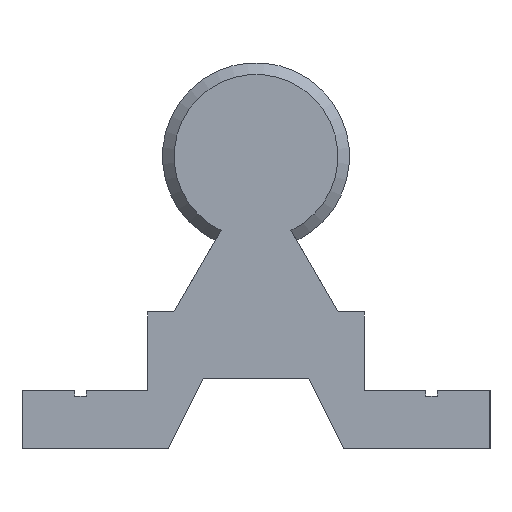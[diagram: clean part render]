
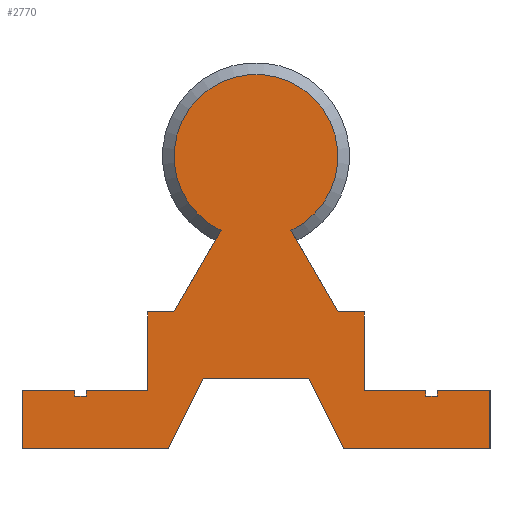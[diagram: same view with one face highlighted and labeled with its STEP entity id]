
A CAD part, left-side view. The second image highlights one B-rep face of the part: STEP entity #2770.
In plain terms, the highlighted planar face has unit normal (-1, 0, 0).
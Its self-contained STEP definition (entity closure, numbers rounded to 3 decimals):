
#60=LINE('',#4093,#296);
#61=LINE('',#4095,#297);
#62=LINE('',#4097,#298);
#63=LINE('',#4099,#299);
#64=LINE('',#4101,#300);
#65=LINE('',#4103,#301);
#66=LINE('',#4105,#302);
#67=LINE('',#4107,#303);
#68=LINE('',#4109,#304);
#69=LINE('',#4111,#305);
#70=LINE('',#4113,#306);
#71=LINE('',#4115,#307);
#72=LINE('',#4117,#308);
#73=LINE('',#4119,#309);
#74=LINE('',#4121,#310);
#75=LINE('',#4123,#311);
#76=LINE('',#4125,#312);
#77=LINE('',#4127,#313);
#78=LINE('',#4129,#314);
#79=LINE('',#4131,#315);
#80=LINE('',#4133,#316);
#81=LINE('',#4135,#317);
#82=LINE('',#4136,#318);
#296=VECTOR('',#3237,10.);
#297=VECTOR('',#3238,10.);
#298=VECTOR('',#3239,10.);
#299=VECTOR('',#3240,10.);
#300=VECTOR('',#3241,10.);
#301=VECTOR('',#3242,10.);
#302=VECTOR('',#3243,10.);
#303=VECTOR('',#3244,10.);
#304=VECTOR('',#3245,10.);
#305=VECTOR('',#3246,10.);
#306=VECTOR('',#3247,10.);
#307=VECTOR('',#3248,10.);
#308=VECTOR('',#3249,10.);
#309=VECTOR('',#3250,10.);
#310=VECTOR('',#3251,10.);
#311=VECTOR('',#3252,10.);
#312=VECTOR('',#3253,10.);
#313=VECTOR('',#3254,10.);
#314=VECTOR('',#3255,10.);
#315=VECTOR('',#3256,10.);
#316=VECTOR('',#3257,10.);
#317=VECTOR('',#3258,10.);
#318=VECTOR('',#3259,10.);
#532=PLANE('',#2924);
#624=FACE_OUTER_BOUND('',#756,.T.);
#756=EDGE_LOOP('',(#1863,#1864,#1865,#1866,#1867,#1868,#1869,#1870,#1871,
#1872,#1873,#1874,#1875,#1876,#1877,#1878,#1879,#1880,#1881,#1882,#1883,
#1884,#1885,#1886));
#909=CIRCLE('',#2922,7.);
#1120=VERTEX_POINT('',#4080);
#1121=VERTEX_POINT('',#4084);
#1123=VERTEX_POINT('',#4092);
#1124=VERTEX_POINT('',#4094);
#1125=VERTEX_POINT('',#4096);
#1126=VERTEX_POINT('',#4098);
#1127=VERTEX_POINT('',#4100);
#1128=VERTEX_POINT('',#4102);
#1129=VERTEX_POINT('',#4104);
#1130=VERTEX_POINT('',#4106);
#1131=VERTEX_POINT('',#4108);
#1132=VERTEX_POINT('',#4110);
#1133=VERTEX_POINT('',#4112);
#1134=VERTEX_POINT('',#4114);
#1135=VERTEX_POINT('',#4116);
#1136=VERTEX_POINT('',#4118);
#1137=VERTEX_POINT('',#4120);
#1138=VERTEX_POINT('',#4122);
#1139=VERTEX_POINT('',#4124);
#1140=VERTEX_POINT('',#4126);
#1141=VERTEX_POINT('',#4128);
#1142=VERTEX_POINT('',#4130);
#1143=VERTEX_POINT('',#4132);
#1144=VERTEX_POINT('',#4134);
#1414=EDGE_CURVE('',#1120,#1121,#909,.T.);
#1417=EDGE_CURVE('',#1121,#1123,#60,.T.);
#1418=EDGE_CURVE('',#1124,#1120,#61,.T.);
#1419=EDGE_CURVE('',#1125,#1124,#62,.T.);
#1420=EDGE_CURVE('',#1126,#1125,#63,.T.);
#1421=EDGE_CURVE('',#1127,#1126,#64,.T.);
#1422=EDGE_CURVE('',#1128,#1127,#65,.T.);
#1423=EDGE_CURVE('',#1129,#1128,#66,.T.);
#1424=EDGE_CURVE('',#1130,#1129,#67,.T.);
#1425=EDGE_CURVE('',#1131,#1130,#68,.T.);
#1426=EDGE_CURVE('',#1132,#1131,#69,.T.);
#1427=EDGE_CURVE('',#1133,#1132,#70,.T.);
#1428=EDGE_CURVE('',#1134,#1133,#71,.T.);
#1429=EDGE_CURVE('',#1135,#1134,#72,.T.);
#1430=EDGE_CURVE('',#1136,#1135,#73,.T.);
#1431=EDGE_CURVE('',#1137,#1136,#74,.T.);
#1432=EDGE_CURVE('',#1138,#1137,#75,.T.);
#1433=EDGE_CURVE('',#1139,#1138,#76,.T.);
#1434=EDGE_CURVE('',#1140,#1139,#77,.T.);
#1435=EDGE_CURVE('',#1141,#1140,#78,.T.);
#1436=EDGE_CURVE('',#1142,#1141,#79,.T.);
#1437=EDGE_CURVE('',#1143,#1142,#80,.T.);
#1438=EDGE_CURVE('',#1144,#1143,#81,.T.);
#1439=EDGE_CURVE('',#1123,#1144,#82,.T.);
#1863=ORIENTED_EDGE('',*,*,#1417,.F.);
#1864=ORIENTED_EDGE('',*,*,#1414,.F.);
#1865=ORIENTED_EDGE('',*,*,#1418,.F.);
#1866=ORIENTED_EDGE('',*,*,#1419,.F.);
#1867=ORIENTED_EDGE('',*,*,#1420,.F.);
#1868=ORIENTED_EDGE('',*,*,#1421,.F.);
#1869=ORIENTED_EDGE('',*,*,#1422,.F.);
#1870=ORIENTED_EDGE('',*,*,#1423,.F.);
#1871=ORIENTED_EDGE('',*,*,#1424,.F.);
#1872=ORIENTED_EDGE('',*,*,#1425,.F.);
#1873=ORIENTED_EDGE('',*,*,#1426,.F.);
#1874=ORIENTED_EDGE('',*,*,#1427,.F.);
#1875=ORIENTED_EDGE('',*,*,#1428,.F.);
#1876=ORIENTED_EDGE('',*,*,#1429,.F.);
#1877=ORIENTED_EDGE('',*,*,#1430,.F.);
#1878=ORIENTED_EDGE('',*,*,#1431,.F.);
#1879=ORIENTED_EDGE('',*,*,#1432,.F.);
#1880=ORIENTED_EDGE('',*,*,#1433,.F.);
#1881=ORIENTED_EDGE('',*,*,#1434,.F.);
#1882=ORIENTED_EDGE('',*,*,#1435,.F.);
#1883=ORIENTED_EDGE('',*,*,#1436,.F.);
#1884=ORIENTED_EDGE('',*,*,#1437,.F.);
#1885=ORIENTED_EDGE('',*,*,#1438,.F.);
#1886=ORIENTED_EDGE('',*,*,#1439,.F.);
#2770=ADVANCED_FACE('',(#624),#532,.F.);
#2922=AXIS2_PLACEMENT_3D('',#4085,#3231,#3232);
#2924=AXIS2_PLACEMENT_3D('',#4091,#3235,#3236);
#3231=DIRECTION('center_axis',(1.,0.,0.));
#3232=DIRECTION('ref_axis',(0.,1.,0.));
#3235=DIRECTION('center_axis',(1.,0.,0.));
#3236=DIRECTION('ref_axis',(0.,0.,-1.));
#3237=DIRECTION('',(0.,-0.5,-0.866));
#3238=DIRECTION('',(0.,-0.5,0.866));
#3239=DIRECTION('',(0.,-1.,0.));
#3240=DIRECTION('',(0.,0.,1.));
#3241=DIRECTION('',(0.,-1.,0.));
#3242=DIRECTION('',(0.,0.,1.));
#3243=DIRECTION('',(0.,-1.,0.));
#3244=DIRECTION('',(0.,0.,-1.));
#3245=DIRECTION('',(0.,-1.,0.));
#3246=DIRECTION('',(0.,0.,1.));
#3247=DIRECTION('',(0.,1.,0.));
#3248=DIRECTION('',(0.,0.447,-0.894));
#3249=DIRECTION('',(0.,1.,0.));
#3250=DIRECTION('',(0.,0.447,0.894));
#3251=DIRECTION('',(0.,1.,0.));
#3252=DIRECTION('',(0.,0.,-1.));
#3253=DIRECTION('',(0.,-1.,0.));
#3254=DIRECTION('',(0.,0.,1.));
#3255=DIRECTION('',(0.,-1.,0.));
#3256=DIRECTION('',(0.,0.,-1.));
#3257=DIRECTION('',(0.,-1.,0.));
#3258=DIRECTION('',(0.,0.,-1.));
#3259=DIRECTION('',(0.,-1.,0.));
#4080=CARTESIAN_POINT('',(0.,2.986,18.669));
#4084=CARTESIAN_POINT('',(0.,-2.986,18.669));
#4085=CARTESIAN_POINT('Origin',(0.,0.,25.));
#4091=CARTESIAN_POINT('Origin',(0.,0.,25.));
#4092=CARTESIAN_POINT('',(0.,-7.009,11.7));
#4093=CARTESIAN_POINT('',(0.,-1.492,21.255));
#4094=CARTESIAN_POINT('',(0.,7.009,11.7));
#4095=CARTESIAN_POINT('',(0.,3.253,18.205));
#4096=CARTESIAN_POINT('',(0.,9.25,11.7));
#4097=CARTESIAN_POINT('',(0.,9.25,11.7));
#4098=CARTESIAN_POINT('',(0.,9.25,5.));
#4099=CARTESIAN_POINT('',(0.,9.25,5.));
#4100=CARTESIAN_POINT('',(0.,14.5,5.));
#4101=CARTESIAN_POINT('',(0.,14.5,5.));
#4102=CARTESIAN_POINT('',(0.,14.5,4.5));
#4103=CARTESIAN_POINT('',(0.,14.5,4.5));
#4104=CARTESIAN_POINT('',(0.,15.5,4.5));
#4105=CARTESIAN_POINT('',(0.,15.5,4.5));
#4106=CARTESIAN_POINT('',(0.,15.5,5.));
#4107=CARTESIAN_POINT('',(0.,15.5,5.));
#4108=CARTESIAN_POINT('',(0.,20.,5.));
#4109=CARTESIAN_POINT('',(0.,20.,5.));
#4110=CARTESIAN_POINT('',(0.,20.,0.));
#4111=CARTESIAN_POINT('',(0.,20.,0.));
#4112=CARTESIAN_POINT('',(0.,7.5,0.));
#4113=CARTESIAN_POINT('',(0.,7.5,0.));
#4114=CARTESIAN_POINT('',(0.,4.5,6.));
#4115=CARTESIAN_POINT('',(0.,4.5,6.));
#4116=CARTESIAN_POINT('',(0.,-4.5,6.));
#4117=CARTESIAN_POINT('',(0.,-4.5,6.));
#4118=CARTESIAN_POINT('',(0.,-7.5,0.));
#4119=CARTESIAN_POINT('',(0.,-7.5,0.));
#4120=CARTESIAN_POINT('',(0.,-20.,0.));
#4121=CARTESIAN_POINT('',(0.,-20.,0.));
#4122=CARTESIAN_POINT('',(0.,-20.,5.));
#4123=CARTESIAN_POINT('',(0.,-20.,5.));
#4124=CARTESIAN_POINT('',(0.,-15.5,5.));
#4125=CARTESIAN_POINT('',(0.,-15.5,5.));
#4126=CARTESIAN_POINT('',(0.,-15.5,4.5));
#4127=CARTESIAN_POINT('',(0.,-15.5,4.5));
#4128=CARTESIAN_POINT('',(0.,-14.5,4.5));
#4129=CARTESIAN_POINT('',(0.,-14.5,4.5));
#4130=CARTESIAN_POINT('',(0.,-14.5,5.));
#4131=CARTESIAN_POINT('',(0.,-14.5,5.));
#4132=CARTESIAN_POINT('',(0.,-9.25,5.));
#4133=CARTESIAN_POINT('',(0.,-9.25,5.));
#4134=CARTESIAN_POINT('',(0.,-9.25,11.7));
#4135=CARTESIAN_POINT('',(0.,-9.25,11.7));
#4136=CARTESIAN_POINT('',(0.,-7.009,11.7));
